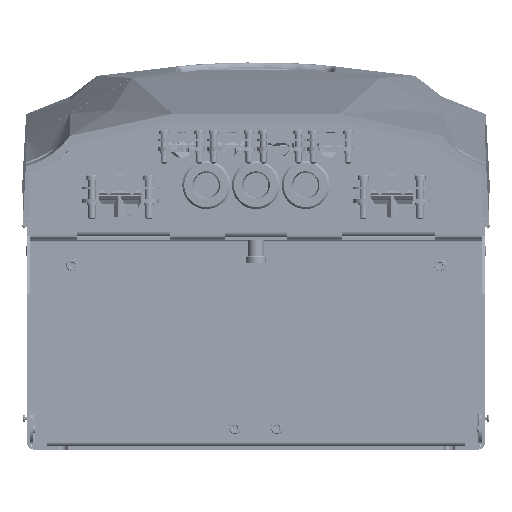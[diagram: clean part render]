
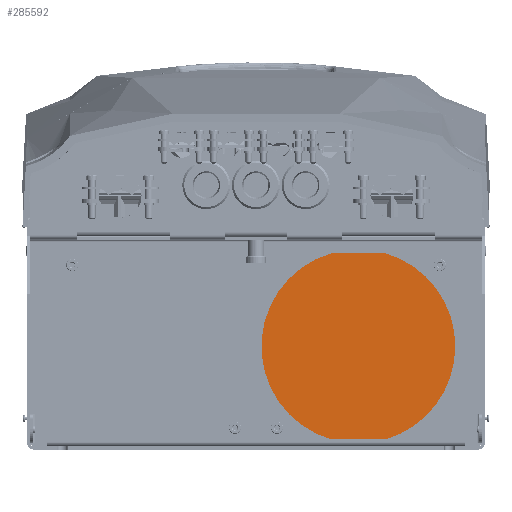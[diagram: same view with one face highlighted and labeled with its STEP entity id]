
A CAD part, front view. The second image highlights one B-rep face of the part: STEP entity #285592.
In plain terms, the highlighted planar face has unit normal (0, -1, 0) as drawn and (0, 0, 1) by its records, which use the part's own axes.
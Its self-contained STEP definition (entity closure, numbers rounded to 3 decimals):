
#25313 = FACE_OUTER_BOUND ( 'NONE', #471569, .T. ) ;
#52938 = CARTESIAN_POINT ( 'NONE',  ( 66., -3., -1. ) ) ;
#54978 = CARTESIAN_POINT ( 'NONE',  ( 83.5, -63., -1. ) ) ;
#68754 = CARTESIAN_POINT ( 'NONE',  ( 48.5, -63., -1. ) ) ;
#69521 = CARTESIAN_POINT ( 'NONE',  ( 66., -3., -1. ) ) ;
#97628 = CARTESIAN_POINT ( 'NONE',  ( 66., -3., -1. ) ) ;
#101096 = DIRECTION ( 'NONE',  ( 0., 0., -1. ) ) ;
#109250 = ORIENTED_EDGE ( 'NONE', *, *, #180852, .T. ) ;
#153243 = DIRECTION ( 'NONE',  ( 0., 0., 1. ) ) ;
#160004 = VERTEX_POINT ( 'NONE', #207286 ) ;
#180852 = EDGE_CURVE ( 'NONE', #492441, #160004, #270583, .T. ) ;
#185212 = VERTEX_POINT ( 'NONE', #220896 ) ;
#206063 = VECTOR ( 'NONE', #549386, 1000. ) ;
#207286 = CARTESIAN_POINT ( 'NONE',  ( 83.5, -63., -1. ) ) ;
#207599 = AXIS2_PLACEMENT_3D ( 'NONE', #280967, #153243, #505092 ) ;
#220896 = CARTESIAN_POINT ( 'NONE',  ( 48.5, 57., -1. ) ) ;
#229047 = ORIENTED_EDGE ( 'NONE', *, *, #547479, .T. ) ;
#231395 = DIRECTION ( 'NONE',  ( 0., 0., 1. ) ) ;
#234431 = CARTESIAN_POINT ( 'NONE',  ( 128.5, -3., -1. ) ) ;
#236439 = DIRECTION ( 'NONE',  ( 1., 0., 0. ) ) ;
#245187 = ORIENTED_EDGE ( 'NONE', *, *, #328500, .T. ) ;
#251318 = LINE ( 'NONE', #424491, #206063 ) ;
#270583 = LINE ( 'NONE', #54978, #539836 ) ;
#280967 = CARTESIAN_POINT ( 'NONE',  ( 66., -3., -1. ) ) ;
#285592 = ADVANCED_FACE ( 'NONE', ( #25313 ), #371579, .F. ) ;
#296228 = AXIS2_PLACEMENT_3D ( 'NONE', #69521, #231395, #415736 ) ;
#325623 = ORIENTED_EDGE ( 'NONE', *, *, #536698, .T. ) ;
#327114 = VERTEX_POINT ( 'NONE', #234431 ) ;
#328500 = EDGE_CURVE ( 'NONE', #482450, #185212, #251318, .T. ) ;
#340057 = EDGE_CURVE ( 'NONE', #327114, #482450, #370891, .T. ) ;
#344757 = DIRECTION ( 'NONE',  ( -1., 0., 0. ) ) ;
#348275 = CIRCLE ( 'NONE', #420844, 62.5 ) ;
#354462 = AXIS2_PLACEMENT_3D ( 'NONE', #52938, #101096, #393552 ) ;
#365907 = CARTESIAN_POINT ( 'NONE',  ( 83.5, 57., -1. ) ) ;
#370891 = CIRCLE ( 'NONE', #207599, 62.5 ) ;
#371579 = PLANE ( 'NONE',  #354462 ) ;
#393552 = DIRECTION ( 'NONE',  ( -1., 0., 0. ) ) ;
#415736 = DIRECTION ( 'NONE',  ( -1., 0., 0. ) ) ;
#420844 = AXIS2_PLACEMENT_3D ( 'NONE', #97628, #475287, #344757 ) ;
#424491 = CARTESIAN_POINT ( 'NONE',  ( 83.5, 57., -1. ) ) ;
#471569 = EDGE_LOOP ( 'NONE', ( #325623, #532057, #245187, #229047, #109250 ) ) ;
#475287 = DIRECTION ( 'NONE',  ( 0., 0., 1. ) ) ;
#482450 = VERTEX_POINT ( 'NONE', #365907 ) ;
#492441 = VERTEX_POINT ( 'NONE', #68754 ) ;
#505092 = DIRECTION ( 'NONE',  ( -1., 0., 0. ) ) ;
#531998 = CIRCLE ( 'NONE', #296228, 62.5 ) ;
#532057 = ORIENTED_EDGE ( 'NONE', *, *, #340057, .T. ) ;
#536698 = EDGE_CURVE ( 'NONE', #160004, #327114, #348275, .T. ) ;
#539836 = VECTOR ( 'NONE', #236439, 1000. ) ;
#547479 = EDGE_CURVE ( 'NONE', #185212, #492441, #531998, .T. ) ;
#549386 = DIRECTION ( 'NONE',  ( -1., 0., 0. ) ) ;
